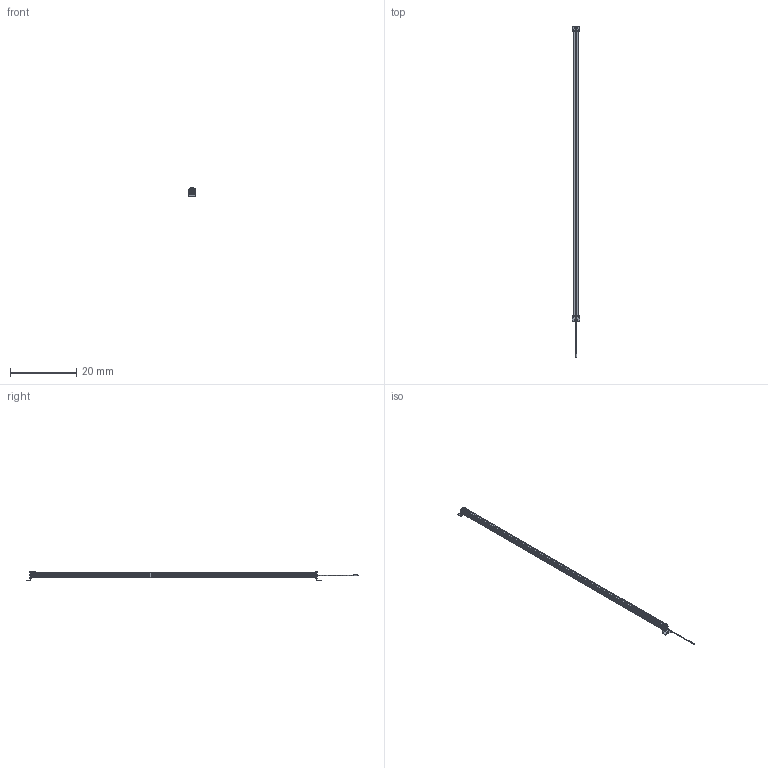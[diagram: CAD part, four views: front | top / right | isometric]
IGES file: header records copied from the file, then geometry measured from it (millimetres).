
Start section:  Autodesk DirectConnect version 7.0.27.0 ---- IGES version 5.3
Global section: file name: C:\ACADFILES\SS_PYLONS\CUSTOMER_FILES\SS-84-PYLON_3D_SMB.iges; native system: Autodesk DirectConnect 7.0.27.0; preprocessor: 7.0.27.0; author: ENGINEERMAIN; organization: Unknown; date: 20150810.130436; units: millimetre
Bounding box: 2.26 x 100.01 x 2.75 mm (x, y, z)
Surface area: 1295.2 mm2 (no closed solid volume)
Topology: 0 solids, 0 shells, 754 faces, 3833 edges, 3829 vertices
Faces by surface type: bspline 754
